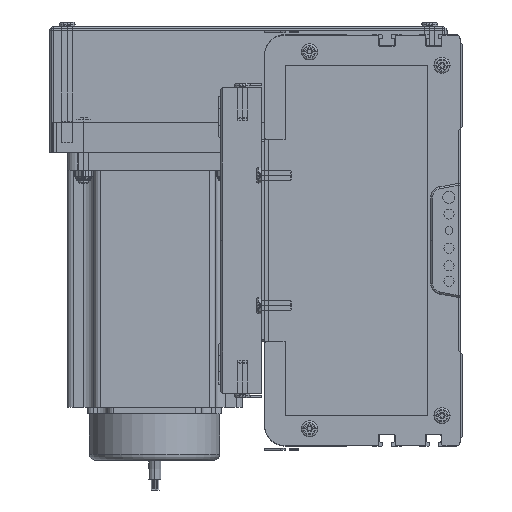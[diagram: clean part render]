
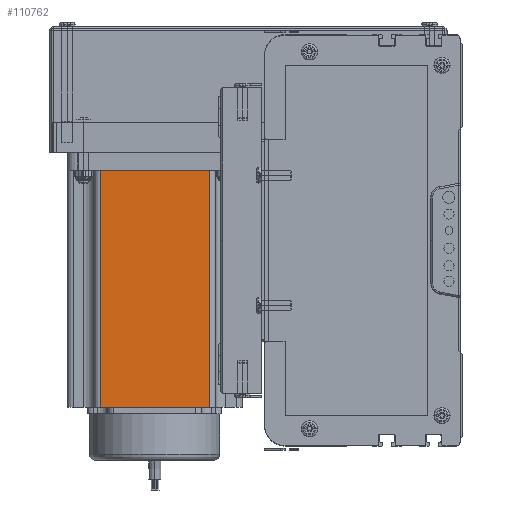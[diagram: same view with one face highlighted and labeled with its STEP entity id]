
A CAD part, left-side view. The second image highlights one B-rep face of the part: STEP entity #110762.
In plain terms, the highlighted planar face has unit normal (-1, 0, 0) as drawn and (0, -1, 0) by its records, which use the part's own axes.
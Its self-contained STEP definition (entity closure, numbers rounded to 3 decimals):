
#53449 = CARTESIAN_POINT ( 'NONE',  ( 16.16, 0., 0. ) ) ;
#54044 = CARTESIAN_POINT ( 'NONE',  ( 16.16, 0., 116.5 ) ) ;
#54215 = CARTESIAN_POINT ( 'NONE',  ( 69.74, 0., 116.5 ) ) ;
#54449 = DIRECTION ( 'NONE',  ( 1., 0., 0. ) ) ;
#54450 = VECTOR ( 'NONE', #54449, 1000. ) ;
#54451 = CARTESIAN_POINT ( 'NONE',  ( 0., 0., 0. ) ) ;
#54454 = LINE ( 'NONE', #54451, #54450 ) ;
#55223 = DIRECTION ( 'NONE',  ( 0., 0., 1. ) ) ;
#55226 = VECTOR ( 'NONE', #55223, 1000. ) ;
#55227 = CARTESIAN_POINT ( 'NONE',  ( 69.74, 0., 116.5 ) ) ;
#55229 = LINE ( 'NONE', #55227, #55226 ) ;
#56670 = LINE ( 'NONE', #56693, #56692 ) ;
#56690 = DIRECTION ( 'NONE',  ( 0., 0., -1. ) ) ;
#56692 = VECTOR ( 'NONE', #56690, 1000. ) ;
#56693 = CARTESIAN_POINT ( 'NONE',  ( 16.16, 0., 116.5 ) ) ;
#57919 = DIRECTION ( 'NONE',  ( 1., 0., 0. ) ) ;
#57922 = VECTOR ( 'NONE', #57919, 1000. ) ;
#57925 = CARTESIAN_POINT ( 'NONE',  ( 0., 0., 116.5 ) ) ;
#58229 = PLANE ( 'NONE',  #58909 ) ;
#58361 = LINE ( 'NONE', #57925, #57922 ) ;
#58688 = FACE_OUTER_BOUND ( 'NONE', #110568, .T. ) ;
#58740 = DIRECTION ( 'NONE',  ( 0., 0., 1. ) ) ;
#58741 = DIRECTION ( 'NONE',  ( 0., 1., 0. ) ) ;
#58909 = AXIS2_PLACEMENT_3D ( 'NONE', #58914, #58741, #58740 ) ;
#58914 = CARTESIAN_POINT ( 'NONE',  ( 0., 0., 116.5 ) ) ;
#58923 = CARTESIAN_POINT ( 'NONE',  ( 69.74, 0., 0. ) ) ;
#110165 = VERTEX_POINT ( 'NONE', #53449 ) ;
#110232 = VERTEX_POINT ( 'NONE', #54215 ) ;
#110246 = ORIENTED_EDGE ( 'NONE', *, *, #110851, .F. ) ;
#110258 = VERTEX_POINT ( 'NONE', #54044 ) ;
#110268 = EDGE_CURVE ( 'NONE', #110165, #110764, #54454, .T. ) ;
#110459 = EDGE_CURVE ( 'NONE', #110764, #110232, #55229, .T. ) ;
#110568 = EDGE_LOOP ( 'NONE', ( #110775, #110773, #110246, #110815 ) ) ;
#110594 = EDGE_CURVE ( 'NONE', #110258, #110165, #56670, .T. ) ;
#110762 = ADVANCED_FACE ( 'NONE', ( #58688 ), #58229, .F. ) ;
#110764 = VERTEX_POINT ( 'NONE', #58923 ) ;
#110773 = ORIENTED_EDGE ( 'NONE', *, *, #110459, .T. ) ;
#110775 = ORIENTED_EDGE ( 'NONE', *, *, #110268, .T. ) ;
#110815 = ORIENTED_EDGE ( 'NONE', *, *, #110594, .T. ) ;
#110851 = EDGE_CURVE ( 'NONE', #110258, #110232, #58361, .T. ) ;
